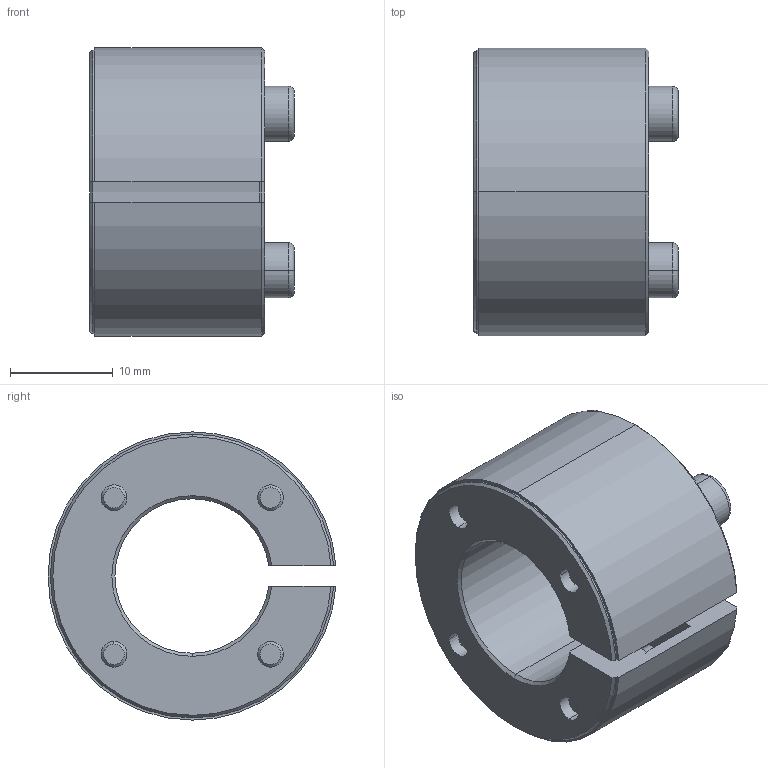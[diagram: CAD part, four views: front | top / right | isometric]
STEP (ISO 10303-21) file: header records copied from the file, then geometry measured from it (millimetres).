
FILE_DESCRIPTION (( 'STEP AP214' ), '1' );
FILE_NAME ('SAPL-E-15X28.STEP', '2024-07-12T02:04:46', ( '决扁浅何厘' ), ( '' ), 'SwSTEP 2.0', 'SolidWorks 2024', '' );
FILE_SCHEMA (( 'AUTOMOTIVE_DESIGN' ));
Length unit declared in the file: millimetre
Products named in the file (1): SAPL-E-15X28
Bounding box: 19.84 x 27.96 x 28 mm (x, y, z)
Volume: 5897 mm3; surface area: 5510.5 mm2
Topology: 1 solids, 1 shells, 139 faces, 341 edges, 220 vertices
Faces by surface type: cylinder 48, plane 48, cone 35, torus 8
Entity records: 4217 total; most frequent: CARTESIAN_POINT 767, DIRECTION 762, ORIENTED_EDGE 682, EDGE_CURVE 341, AXIS2_PLACEMENT_3D 301, VERTEX_POINT 220, EDGE_LOOP 169, CIRCLE 161
